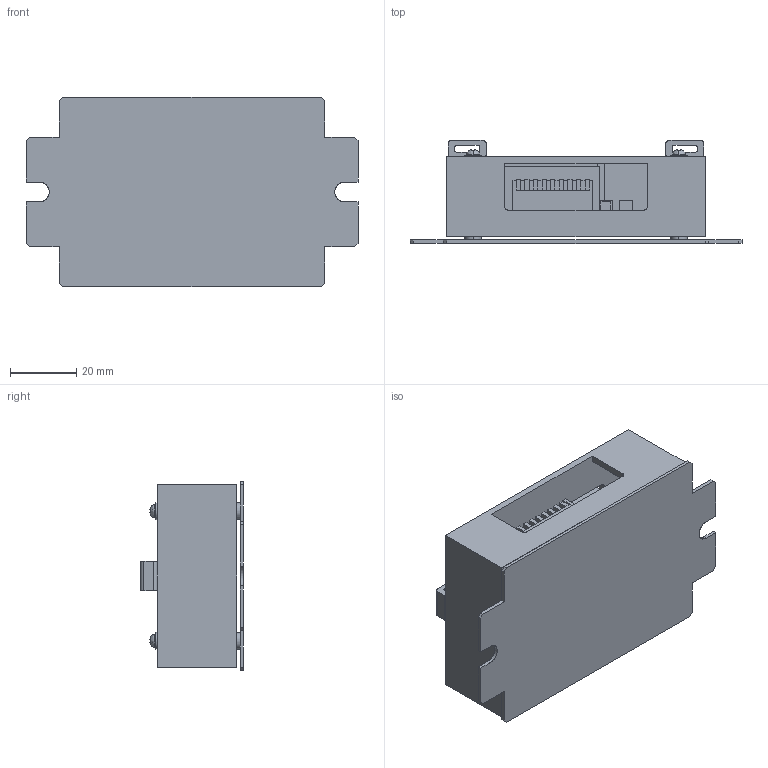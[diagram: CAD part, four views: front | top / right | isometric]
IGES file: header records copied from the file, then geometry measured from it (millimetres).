
Start section: SolidWorks IGES file using analytic representation for surfaces
Global section: file name: C:\Documents and Settings\CAD53\デスクトップ\センサー系\センサー系のIGES\002027.IGS; native system: SolidWorks 2006 by SolidWorks Corporation; preprocessor: SolidWorks 2006 by SolidWorks Corporation; author: CAD53; date: 071015.141725; units: millimetre
Bounding box: 100 x 31 x 57 mm (x, y, z)
Surface area: 42278.3 mm2 (no closed solid volume)
Topology: 0 solids, 0 shells, 377 faces, 3386 edges, 3386 vertices
Faces by surface type: bspline 317, revolution 60
